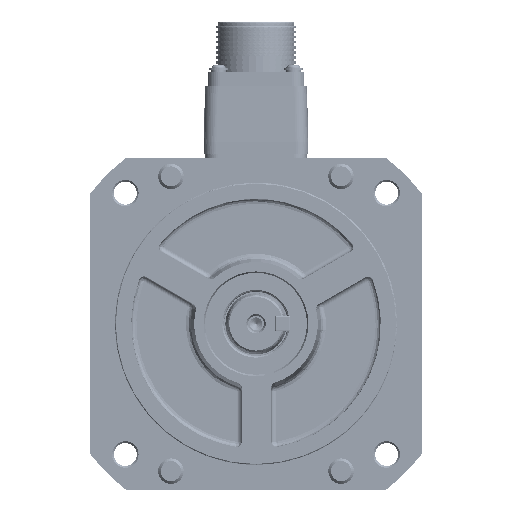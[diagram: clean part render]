
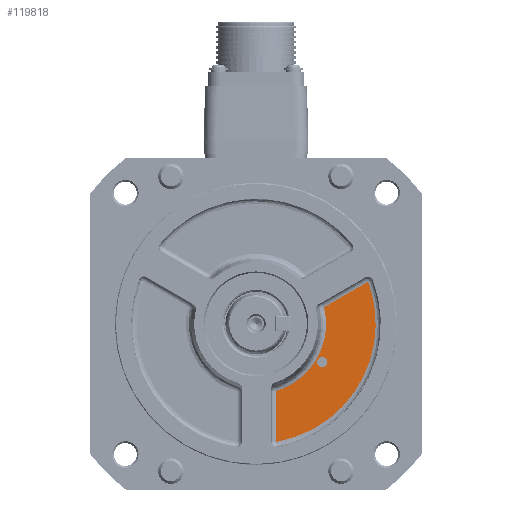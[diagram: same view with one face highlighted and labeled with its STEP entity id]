
A CAD part, left-side view. The second image highlights one B-rep face of the part: STEP entity #119818.
In plain terms, the highlighted planar face has unit normal (1, 0, 0).
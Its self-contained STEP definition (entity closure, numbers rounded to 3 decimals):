
#47 = EDGE_CURVE ( 'NONE', #123577, #123592, #65325, .T. ) ;
#3141 = DIRECTION ( 'NONE',  ( 1., 0., 0. ) ) ;
#3145 = CARTESIAN_POINT ( 'NONE',  ( -2.652, 0.039, -0.005 ) ) ;
#3147 = FACE_OUTER_BOUND ( 'NONE', #5860, .T. ) ;
#3163 = FACE_BOUND ( 'NONE', #5758, .T. ) ;
#3176 = PLANE ( 'NONE',  #135616 ) ;
#3202 = DIRECTION ( 'NONE',  ( 0., 0., -1. ) ) ;
#5758 = EDGE_LOOP ( 'NONE', ( #82575, #82526 ) ) ;
#5860 = EDGE_LOOP ( 'NONE', ( #82542, #82598, #82589, #82513 ) ) ;
#8472 = VERTEX_POINT ( 'NONE', #40757 ) ;
#8538 = VERTEX_POINT ( 'NONE', #40850 ) ;
#8545 = VERTEX_POINT ( 'NONE', #40811 ) ;
#13150 = DIRECTION ( 'NONE',  ( 0., 0., -1. ) ) ;
#13171 = CARTESIAN_POINT ( 'NONE',  ( -2.652, -25.981, -15. ) ) ;
#13172 = DIRECTION ( 'NONE',  ( -1., 0., 0. ) ) ;
#27262 = CARTESIAN_POINT ( 'NONE',  ( -2.652, -26.709, 6.547 ) ) ;
#28349 = CARTESIAN_POINT ( 'NONE',  ( -2.652, -25.981, -17. ) ) ;
#28368 = CARTESIAN_POINT ( 'NONE',  ( -2.652, -25.981, -13. ) ) ;
#40757 = CARTESIAN_POINT ( 'NONE',  ( -2.652, -8., -46.312 ) ) ;
#40811 = CARTESIAN_POINT ( 'NONE',  ( -2.652, -8., -26.311 ) ) ;
#40850 = CARTESIAN_POINT ( 'NONE',  ( -2.652, -43.964, 16.51 ) ) ;
#65306 = AXIS2_PLACEMENT_3D ( 'NONE', #13171, #13172, #13150 ) ;
#65325 = CIRCLE ( 'NONE', #65306, 2. ) ;
#71882 =( BOUNDED_CURVE ( )  B_SPLINE_CURVE ( 3, ( #84464, #84533, #84535, #84536 ),
 .UNSPECIFIED., .F., .T. ) 
 B_SPLINE_CURVE_WITH_KNOTS ( ( 4, 4 ),
 ( 0., 1. ),
 .UNSPECIFIED. ) 
 CURVE ( )  GEOMETRIC_REPRESENTATION_ITEM ( )  RATIONAL_B_SPLINE_CURVE ( ( 1., 0.817, 0.817, 1. ) ) 
 REPRESENTATION_ITEM ( '' )  );
#71896 =( BOUNDED_CURVE ( )  B_SPLINE_CURVE ( 3, ( #85367, #85371, #85305, #85272 ),
 .UNSPECIFIED., .F., .T. ) 
 B_SPLINE_CURVE_WITH_KNOTS ( ( 4, 4 ),
 ( 0., 1. ),
 .UNSPECIFIED. ) 
 CURVE ( )  GEOMETRIC_REPRESENTATION_ITEM ( )  RATIONAL_B_SPLINE_CURVE ( ( 1., 0.759, 0.759, 1. ) ) 
 REPRESENTATION_ITEM ( '' )  );
#79488 = VECTOR ( 'NONE', #84768, 1000. ) ;
#79505 = VECTOR ( 'NONE', #85100, 1000. ) ;
#79677 = CIRCLE ( 'NONE', #79749, 2. ) ;
#79749 = AXIS2_PLACEMENT_3D ( 'NONE', #88546, #88652, #88554 ) ;
#82513 = ORIENTED_EDGE ( 'NONE', *, *, #86710, .F. ) ;
#82526 = ORIENTED_EDGE ( 'NONE', *, *, #47, .T. ) ;
#82542 = ORIENTED_EDGE ( 'NONE', *, *, #86738, .F. ) ;
#82575 = ORIENTED_EDGE ( 'NONE', *, *, #86785, .T. ) ;
#82589 = ORIENTED_EDGE ( 'NONE', *, *, #86690, .F. ) ;
#82598 = ORIENTED_EDGE ( 'NONE', *, *, #86721, .F. ) ;
#84464 = CARTESIAN_POINT ( 'NONE',  ( -2.652, -26.709, 6.547 ) ) ;
#84533 = CARTESIAN_POINT ( 'NONE',  ( -2.652, -30.38, -8.427 ) ) ;
#84535 = CARTESIAN_POINT ( 'NONE',  ( -2.652, -22.751, -21.825 ) ) ;
#84536 = CARTESIAN_POINT ( 'NONE',  ( -2.652, -8., -26.311 ) ) ;
#84652 = CARTESIAN_POINT ( 'NONE',  ( -2.652, -45.958, 17.661 ) ) ;
#84740 = LINE ( 'NONE', #84652, #79488 ) ;
#84768 = DIRECTION ( 'NONE',  ( 0., 0.866, -0.5 ) ) ;
#85088 = LINE ( 'NONE', #85098, #79505 ) ;
#85098 = CARTESIAN_POINT ( 'NONE',  ( -2.652, -8., -48.631 ) ) ;
#85100 = DIRECTION ( 'NONE',  ( 0., 0., -1. ) ) ;
#85272 = CARTESIAN_POINT ( 'NONE',  ( -2.652, -43.964, 16.51 ) ) ;
#85305 = CARTESIAN_POINT ( 'NONE',  ( -2.652, -55.14, -13.269 ) ) ;
#85367 = CARTESIAN_POINT ( 'NONE',  ( -2.652, -8., -46.312 ) ) ;
#85371 = CARTESIAN_POINT ( 'NONE',  ( -2.652, -39.338, -40.872 ) ) ;
#86690 = EDGE_CURVE ( 'NONE', #121992, #8545, #71882, .T. ) ;
#86710 = EDGE_CURVE ( 'NONE', #8538, #121992, #84740, .T. ) ;
#86721 = EDGE_CURVE ( 'NONE', #8545, #8472, #85088, .T. ) ;
#86738 = EDGE_CURVE ( 'NONE', #8472, #8538, #71896, .T. ) ;
#86785 = EDGE_CURVE ( 'NONE', #123592, #123577, #79677, .T. ) ;
#88546 = CARTESIAN_POINT ( 'NONE',  ( -2.652, -25.981, -15. ) ) ;
#88554 = DIRECTION ( 'NONE',  ( 0., 0., -1. ) ) ;
#88652 = DIRECTION ( 'NONE',  ( -1., 0., 0. ) ) ;
#119818 = ADVANCED_FACE ( 'NONE', ( #3163, #3147 ), #3176, .T. ) ;
#121992 = VERTEX_POINT ( 'NONE', #27262 ) ;
#123577 = VERTEX_POINT ( 'NONE', #28368 ) ;
#123592 = VERTEX_POINT ( 'NONE', #28349 ) ;
#135616 = AXIS2_PLACEMENT_3D ( 'NONE', #3145, #3141, #3202 ) ;
